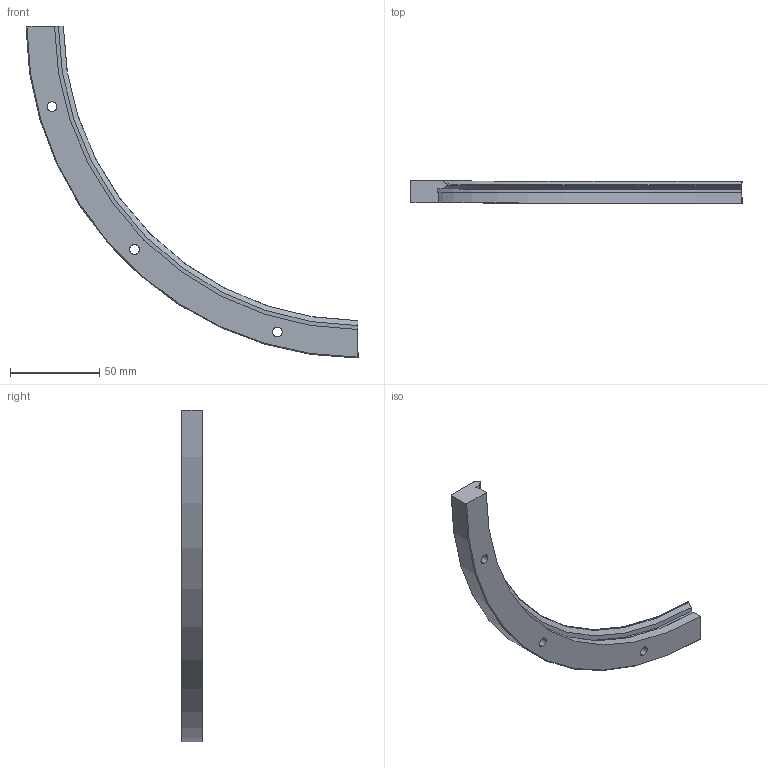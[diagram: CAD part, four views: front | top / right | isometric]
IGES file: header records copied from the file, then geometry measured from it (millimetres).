
Start section: 3D InterOp IGES (v. 2020 1.0.1), Spatial Corp. Copyright (c) 1999-2017.
Global section: file name: ris_374_r90.igs; native system: Spatial Corp.; preprocessor: 3D InterOp ACIS/IGES; author: TraceParts; organization: TraceParts S.A.; date: 20220624.062313; units: millimetre
Bounding box: 186 x 12.25 x 186 mm (x, y, z)
Surface area: 18906.4 mm2 (no closed solid volume)
Topology: 0 solids, 0 shells, 30 faces, 150 edges, 150 vertices
Faces by surface type: revolution 21, extrusion 9
